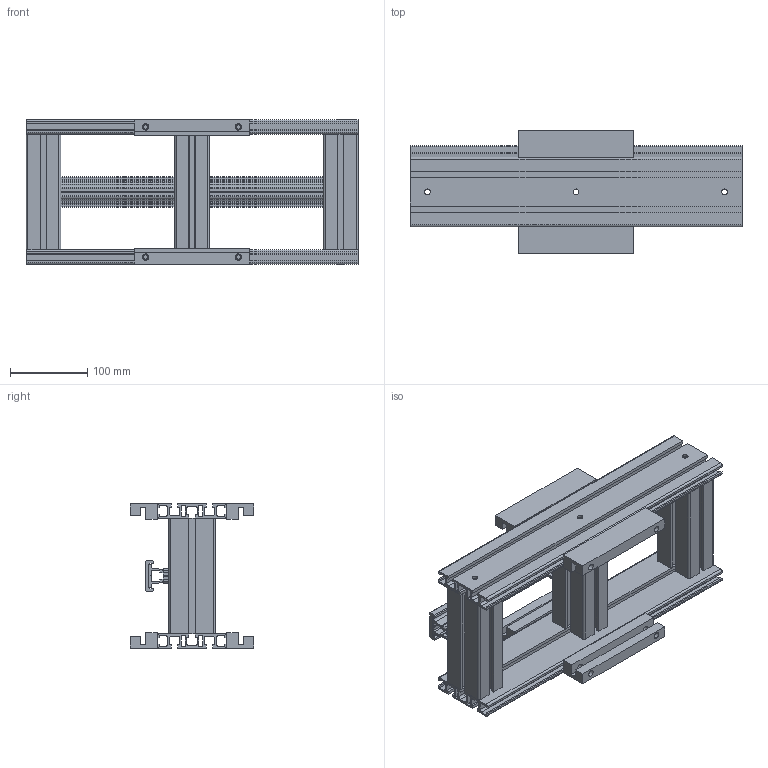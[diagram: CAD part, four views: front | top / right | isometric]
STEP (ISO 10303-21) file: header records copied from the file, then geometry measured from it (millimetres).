
FILE_DESCRIPTION (( 'STEP AP203' ), '1' );
FILE_NAME ('3000.152.104.STEP', '2018-03-09T16:28:17', ( '' ), ( '' ), 'SwSTEP 2.0', 'SolidWorks 2016', '' );
FILE_SCHEMA (( 'CONFIG_CONTROL_DESIGN' ));
Length unit declared in the file: millimetre
Products named in the file (1): 3000.152.104
Bounding box: 430 x 160 x 187 mm (x, y, z)
Volume: 1684389 mm3; surface area: 1136007.1 mm2
Topology: 15 solids, 15 shells, 811 faces, 2328 edges, 1552 vertices
Faces by surface type: plane 511, cylinder 296, cone 4
Entity records: 26849 total; most frequent: CARTESIAN_POINT 4728, ORIENTED_EDGE 4656, DIRECTION 4546, EDGE_CURVE 2328, LINE 1710, VECTOR 1710, VERTEX_POINT 1552, AXIS2_PLACEMENT_3D 1418
